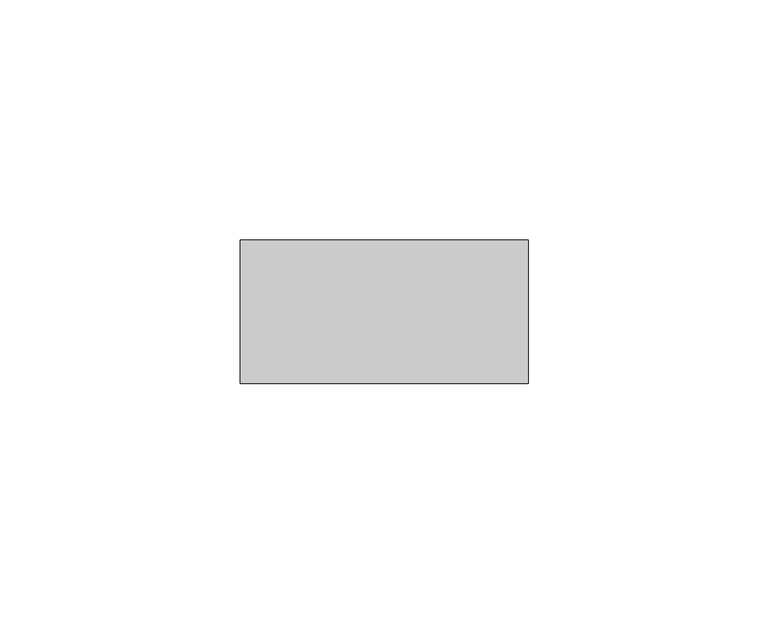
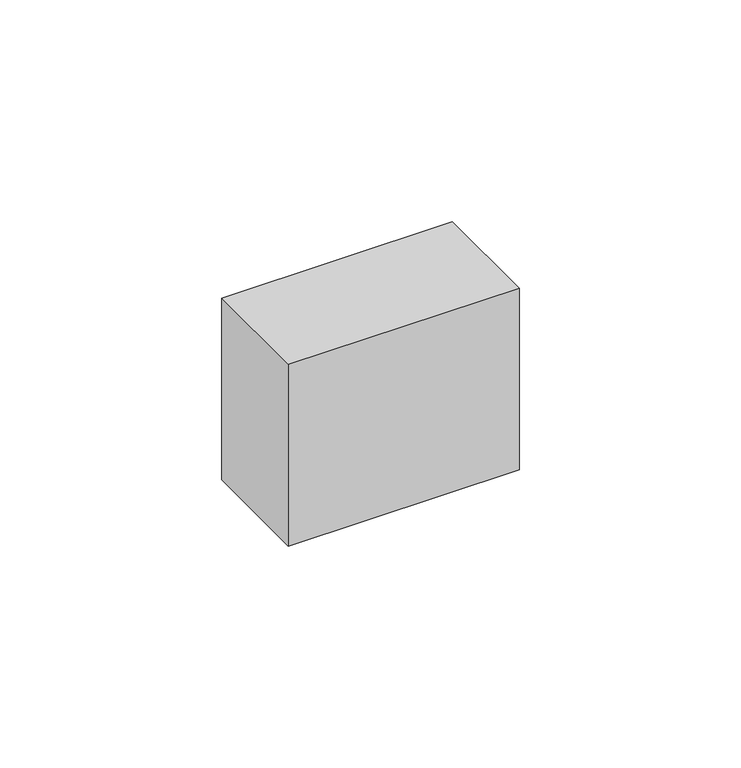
"""IFC4 building model written with IfcOpenShell, lengths in millimetres: member geometry, Прямоугольный импост : Квадрат 30 мм."""

import ifcopenshell
import ifcopenshell.guid

model = None  # the IFC model being written
_history = None  # IfcOwnerHistory: only IFC2X3 demands one
_inside = {}  # id of a spatial element -> (the spatial element, [elements in it])
_under = {}  # id of a project, library or spatial element -> (it, [spatial elements below it])
_declared = {}  # id of a project -> (the project, [libraries it declares])
_typed = {}  # id of a type object -> (the type object, [elements of that type])
_made_of = {}  # id of a material, layer set ... -> (it, [elements and type objects made of it])


def new_model(schema):
    """Start an empty IFC model of exactly this schema.

    Asked for "IFC4X3", IfcOpenShell would pick the latest addendum, in which some entities
    have other attributes; the version numbers below select the first issue.
    IFC2X3 requires an IfcOwnerHistory on every rooted entity: one is made here for all.
    """
    global model, _history
    if schema == "IFC4X3":
        model = ifcopenshell.file(schema_version=(4, 3, 0, 0))
    else:
        model = ifcopenshell.file(schema=schema)
    _inside.clear()
    _under.clear()
    _declared.clear()
    _typed.clear()
    _made_of.clear()
    _history = None
    if model.schema == "IFC2X3":
        org = make("IfcOrganization", Name="unknown")
        user = make(
            "IfcPersonAndOrganization",
            ThePerson=make("IfcPerson", FamilyName="unknown"),
            TheOrganization=org,
        )
        app = make(
            "IfcApplication",
            ApplicationDeveloper=org,
            Version="unknown",
            ApplicationFullName="unknown",
            ApplicationIdentifier="unknown",
        )
        _history = make(
            "IfcOwnerHistory",
            OwningUser=user,
            OwningApplication=app,
            ChangeAction="ADDED",
            CreationDate=0,
        )
    return model


def make(cls, **values):
    """One entity of the class cls with the attributes given. An attribute that is None is left unset."""
    return model.create_entity(
        cls, **{name: value for name, value in values.items() if value is not None}
    )


def rooted(cls, **values):
    """An entity with a GlobalId (a new one), such as an element, a storey or a relation."""
    return make(cls, GlobalId=ifcopenshell.guid.new(), OwnerHistory=_history, **values)


def si_unit(unit_type, name, prefix=None):
    """IfcSIUnit, for example si_unit("LENGTHUNIT", "METRE", prefix="MILLI")."""
    return make("IfcSIUnit", UnitType=unit_type, Prefix=prefix, Name=name)


def assignment(units):
    """IfcUnitAssignment: the units of a project."""
    return None if units is None else make("IfcUnitAssignment", Units=units)


def point(xyz):
    """IfcCartesianPoint."""
    return None if xyz is None else make("IfcCartesianPoint", Coordinates=xyz)


def direction(xyz):
    """IfcDirection."""
    return None if xyz is None else make("IfcDirection", DirectionRatios=xyz)


def frame(location, z_axis=None, x_axis=None):
    """IfcAxis2Placement3D, a coordinate frame: its origin and axes. An axis left out is left unset."""
    return make(
        "IfcAxis2Placement3D",
        Location=point(location),
        Axis=direction(z_axis),
        RefDirection=direction(x_axis),
    )


def origin():
    """The frame at (0, 0, 0) with its axes left unset."""
    return frame((0.0, 0.0, 0.0))


def place(relative_to, where):
    """IfcLocalPlacement: puts the frame where relative to a parent placement (None: the world)."""
    return make(
        "IfcLocalPlacement", PlacementRelTo=relative_to, RelativePlacement=where
    )


def context(
    kind, dimensions, precision=None, world=None, true_north=None, identifier=None
):
    """IfcGeometricRepresentationContext, for example the 3D "Model" context."""
    return make(
        "IfcGeometricRepresentationContext",
        ContextIdentifier=identifier,
        ContextType=kind,
        CoordinateSpaceDimension=dimensions,
        Precision=precision,
        WorldCoordinateSystem=world,
        TrueNorth=true_north,
    )


def project(units=None, contexts=None):
    """IfcProject with its units and contexts."""
    return rooted(
        "IfcProject",
        Name="project",
        RepresentationContexts=contexts,
        UnitsInContext=assignment(units),
    )


def spatial(cls, under=None, at=None, **own):
    """A site, building, storey or space (cls), placed at a placement, below another one or the project."""
    s = rooted(cls, ObjectPlacement=at, **own)
    if under is not None:
        _under.setdefault(under.id(), (under, []))[1].append(s)
    return s


def polyline(points):
    """IfcPolyline through the points."""
    return make("IfcPolyline", Points=[point(p) for p in points])


def outline(outer, holes=None, kind="AREA"):
    """IfcArbitraryClosedProfileDef: a profile drawn as a closed curve; with holes, ...WithVoids."""
    if holes is None:
        return make("IfcArbitraryClosedProfileDef", ProfileType=kind, OuterCurve=outer)
    return make(
        "IfcArbitraryProfileDefWithVoids",
        ProfileType=kind,
        OuterCurve=outer,
        InnerCurves=holes,
    )


def extrude(swept, where, along, depth):
    """IfcExtrudedAreaSolid: the profile swept, set in the frame where, extruded along a direction by depth."""
    return make(
        "IfcExtrudedAreaSolid",
        SweptArea=swept,
        Position=where,
        ExtrudedDirection=direction(along),
        Depth=depth,
    )


def shape(context_of_items, identifier, shape_type, items):
    """IfcShapeRepresentation: the items that make up one representation, for example the "Body"."""
    return make(
        "IfcShapeRepresentation",
        ContextOfItems=context_of_items,
        RepresentationIdentifier=identifier,
        RepresentationType=shape_type,
        Items=items,
    )


def source(mapping_origin, context_of_items, identifier, shape_type, items):
    """IfcRepresentationMap: a shape defined once, which mapped items show again and again."""
    return make(
        "IfcRepresentationMap",
        MappingOrigin=mapping_origin,
        MappedRepresentation=shape(context_of_items, identifier, shape_type, items),
    )


def transform(
    local_origin,
    x_axis=None,
    y_axis=None,
    z_axis=None,
    scale=None,
    scale2=None,
    scale3=None,
    uniform=True,
):
    """IfcCartesianTransformationOperator3D, or its non-uniform kind. x_axis, y_axis, z_axis: its Axis1, 2, 3."""
    if uniform:
        return make(
            "IfcCartesianTransformationOperator3D",
            Axis1=direction(x_axis),
            Axis2=direction(y_axis),
            LocalOrigin=point(local_origin),
            Scale=scale,
            Axis3=direction(z_axis),
        )
    return make(
        "IfcCartesianTransformationOperator3DnonUniform",
        Axis1=direction(x_axis),
        Axis2=direction(y_axis),
        LocalOrigin=point(local_origin),
        Scale=scale,
        Axis3=direction(z_axis),
        Scale2=scale2,
        Scale3=scale3,
    )


def mapped(mapping_source, mapping_target):
    """IfcMappedItem: shows the shape of a source again, moved by a transform."""
    return make(
        "IfcMappedItem", MappingSource=mapping_source, MappingTarget=mapping_target
    )


def made_of(thing, what):
    """Note that an element or type object is made of a material, layer set ...; save() writes the relation."""
    if what is not None:
        _made_of.setdefault(what.id(), (what, []))[1].append(thing)
    return thing


def element(
    cls,
    number,
    at=None,
    inside=None,
    cuts=None,
    type_object=None,
    material=None,
    context=None,
    identifier="Body",
    shape_type=None,
    held_by="IfcProductDefinitionShape",
    body=None,
    shapes=None,
    **own,
):
    """One element of the class cls, such as IfcWall. Its Tag is "e" and its number.

    at: its placement. inside: the storey or other place that contains it. cuts: it is an
    opening in that element (IfcRelVoidsElement). A single representation is given by context,
    identifier, shape_type and body (its items); several are given by shapes. held_by: the class
    of the entity that holds the representations. save() writes the other relations.
    """
    e = rooted(cls, Tag="e%d" % number, ObjectPlacement=at, **own)
    if body is not None:
        shapes = [shape(context, identifier, shape_type, body)]
    if shapes is not None:
        e.Representation = make(held_by, Representations=shapes)
    if inside is not None:
        _inside.setdefault(inside.id(), (inside, []))[1].append(e)
    if cuts is not None:
        rooted(
            "IfcRelVoidsElement", RelatingBuildingElement=cuts, RelatedOpeningElement=e
        )
    if type_object is not None:
        _typed.setdefault(type_object.id(), (type_object, []))[1].append(e)
    return made_of(e, material)


def aggregate(whole, parts):
    """IfcRelAggregates: a whole, such as a stair, and the parts it consists of."""
    return rooted("IfcRelAggregates", RelatingObject=whole, RelatedObjects=parts)


def save(model, path):
    """Write the relations noted so far, then the file.

    IfcRelAggregates (storeys below a building ...), IfcRelContainedInSpatialStructure (elements
    in a storey), IfcRelDefinesByType, IfcRelAssociatesMaterial and IfcRelDeclares: one each for
    every whole, place, type object, material and project.
    """
    for whole, parts in _under.values():
        aggregate(whole, parts)
    for where, things in _inside.values():
        rooted(
            "IfcRelContainedInSpatialStructure",
            RelatedElements=things,
            RelatingStructure=where,
        )
    for kind, things in _typed.values():
        rooted("IfcRelDefinesByType", RelatedObjects=things, RelatingType=kind)
    for what, things in _made_of.values():
        rooted("IfcRelAssociatesMaterial", RelatedObjects=things, RelatingMaterial=what)
    for by, libraries in _declared.values():
        rooted("IfcRelDeclares", RelatingContext=by, RelatedDefinitions=libraries)
    model.write(path)


def member_a77ab3d1(model_context):
    return source(origin(), model_context, "Body", "SweptSolid", [
        extrude(outline(polyline([(30.0, 15.0), (30.0, -15.0), (-30.0, -15.0), (-30.0, 15.0), (30.0, 15.0)])), frame((0.0, 0.0, -50.0), z_axis=(0.0, 0.0, 1.0), x_axis=(1.0, 0.0, 0.0)), (0.0, 0.0, 1.0), 50.0),
    ])


if __name__ == "__main__":
    model = new_model("IFC4")
    model_context = context("Model", 3, world=origin())
    ifc_project = project(units=[si_unit("LENGTHUNIT", "METRE", prefix="MILLI")], contexts=[model_context])
    site = spatial("IfcSite", under=ifc_project)
    building = spatial("IfcBuilding", under=site)
    placement = place(None, origin())
    member_shape = member_a77ab3d1(model_context)
    element("IfcMember", 1, ObjectType="Прямоугольный импост : Квадрат 30 мм", at=placement, inside=building, context=model_context, shape_type="MappedRepresentation", body=[
        mapped(member_shape, transform((0.0, 0.0, 0.0), x_axis=(1.0, 0.0, 0.0), y_axis=(0.0, 1.0, 0.0), z_axis=(0.0, 0.0, 1.0))),
    ])
    save(model, "model.ifc")
